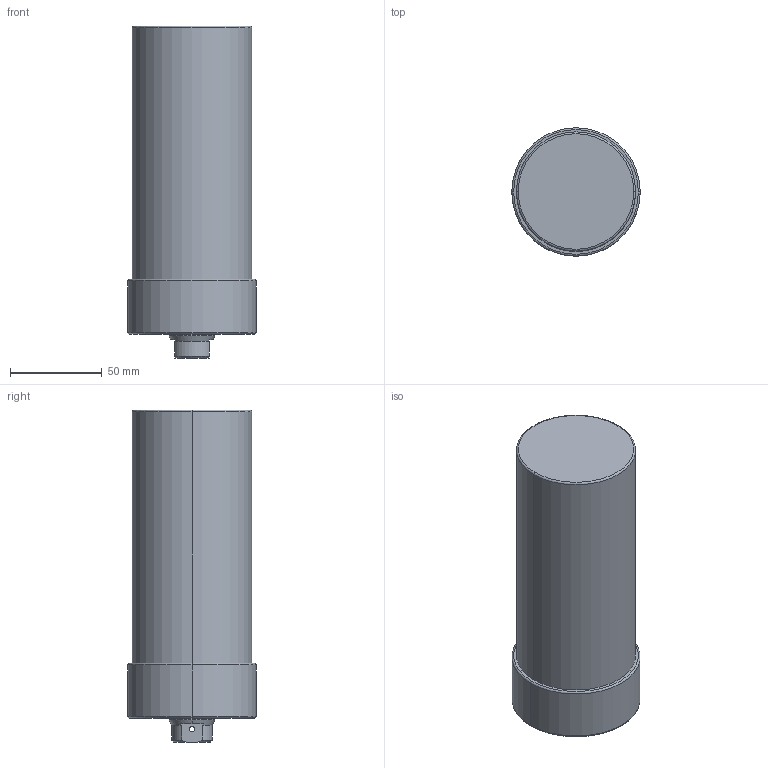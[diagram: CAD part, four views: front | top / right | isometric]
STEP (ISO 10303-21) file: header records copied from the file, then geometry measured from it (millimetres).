
FILE_DESCRIPTION (( 'STEP AP203' ), '1' );
FILE_NAME ('CLLU-065GB-105.STEP', '2020-01-07T06:44:21', ( '' ), ( '' ), 'SwSTEP 2.0', 'SolidWorks 2015', '' );
FILE_SCHEMA (( 'CONFIG_CONTROL_DESIGN' ));
Length unit declared in the file: millimetre
Products named in the file (1): CLLU-065GB-105
Bounding box: 70 x 70 x 181 mm (x, y, z)
Volume: 573751.3 mm3; surface area: 45261.3 mm2
Topology: 1 solids, 1 shells, 66 faces, 154 edges, 87 vertices
Faces by surface type: cylinder 26, cone 24, plane 10, torus 6
Entity records: 2001 total; most frequent: CARTESIAN_POINT 430, DIRECTION 342, ORIENTED_EDGE 288, EDGE_CURVE 144, AXIS2_PLACEMENT_3D 143, VERTEX_POINT 87, EDGE_LOOP 77, CIRCLE 76
